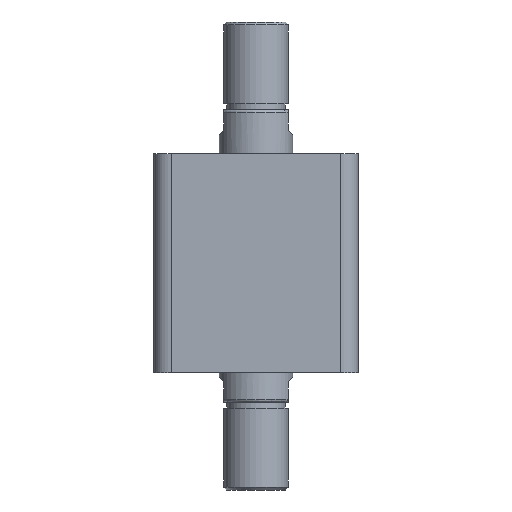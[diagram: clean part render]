
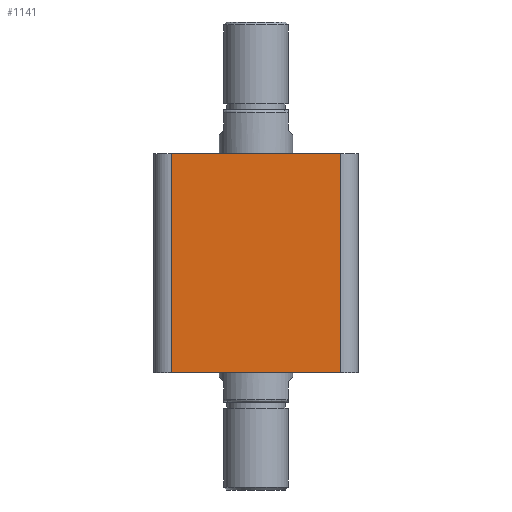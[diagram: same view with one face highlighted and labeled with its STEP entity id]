
A CAD part, front view. The second image highlights one B-rep face of the part: STEP entity #1141.
In plain terms, the highlighted planar face has unit normal (0, -1, 0).
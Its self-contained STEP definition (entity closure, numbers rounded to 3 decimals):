
#91 = FACE_OUTER_BOUND ( 'NONE', #3396, .T. ) ;
#231 = LINE ( 'NONE', #1499, #243 ) ;
#241 = LINE ( 'NONE', #1498, #245 ) ;
#243 = VECTOR ( 'NONE', #1494, 1000. ) ;
#244 = LINE ( 'NONE', #1504, #247 ) ;
#245 = VECTOR ( 'NONE', #1503, 1000. ) ;
#247 = VECTOR ( 'NONE', #1505, 1000. ) ;
#535 = AXIS2_PLACEMENT_3D ( 'NONE', #1899, #1903, #1904 ) ;
#631 = LINE ( 'NONE', #1603, #633 ) ;
#633 = VECTOR ( 'NONE', #1604, 1000. ) ;
#1141 = ADVANCED_FACE ( 'NONE', ( #91 ), #1901, .F. ) ;
#1339 = CARTESIAN_POINT ( 'NONE',  ( 29., -35., 0. ) ) ;
#1363 = CARTESIAN_POINT ( 'NONE',  ( 29., -35., 75. ) ) ;
#1380 = CARTESIAN_POINT ( 'NONE',  ( -29., -35., 75. ) ) ;
#1381 = CARTESIAN_POINT ( 'NONE',  ( -29., -35., 0. ) ) ;
#1494 = DIRECTION ( 'NONE',  ( 1., 0., 0. ) ) ;
#1498 = CARTESIAN_POINT ( 'NONE',  ( -35., -35., 75. ) ) ;
#1499 = CARTESIAN_POINT ( 'NONE',  ( -35., -35., 0. ) ) ;
#1503 = DIRECTION ( 'NONE',  ( 1., 0., 0. ) ) ;
#1504 = CARTESIAN_POINT ( 'NONE',  ( -29., -35., 75. ) ) ;
#1505 = DIRECTION ( 'NONE',  ( 0., 0., -1. ) ) ;
#1603 = CARTESIAN_POINT ( 'NONE',  ( 29., -35., 75. ) ) ;
#1604 = DIRECTION ( 'NONE',  ( 0., 0., 1. ) ) ;
#1772 = VERTEX_POINT ( 'NONE', #1339 ) ;
#1899 = CARTESIAN_POINT ( 'NONE',  ( -35., -35., 75. ) ) ;
#1901 = PLANE ( 'NONE',  #535 ) ;
#1903 = DIRECTION ( 'NONE',  ( 0., 1., 0. ) ) ;
#1904 = DIRECTION ( 'NONE',  ( 0., 0., 1. ) ) ;
#2088 = VERTEX_POINT ( 'NONE', #1363 ) ;
#2105 = VERTEX_POINT ( 'NONE', #1380 ) ;
#2106 = VERTEX_POINT ( 'NONE', #1381 ) ;
#2828 = EDGE_CURVE ( 'NONE', #2106, #1772, #231, .T. ) ;
#2829 = EDGE_CURVE ( 'NONE', #2105, #2088, #241, .T. ) ;
#2830 = EDGE_CURVE ( 'NONE', #2105, #2106, #244, .T. ) ;
#2872 = EDGE_CURVE ( 'NONE', #1772, #2088, #631, .T. ) ;
#3396 = EDGE_LOOP ( 'NONE', ( #3439, #3441, #3437, #3440 ) ) ;
#3437 = ORIENTED_EDGE ( 'NONE', *, *, #2828, .T. ) ;
#3439 = ORIENTED_EDGE ( 'NONE', *, *, #2829, .F. ) ;
#3440 = ORIENTED_EDGE ( 'NONE', *, *, #2872, .T. ) ;
#3441 = ORIENTED_EDGE ( 'NONE', *, *, #2830, .T. ) ;
